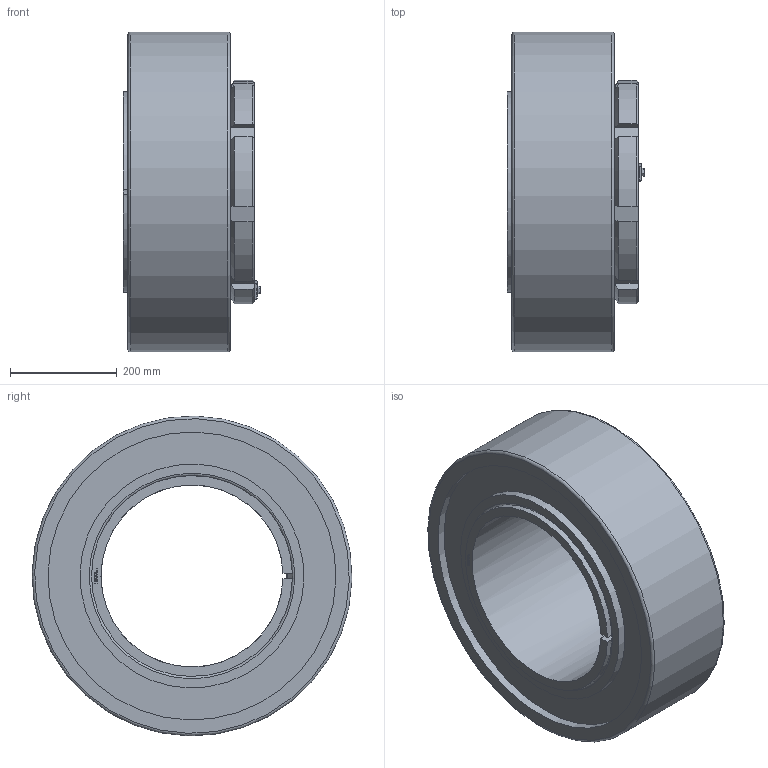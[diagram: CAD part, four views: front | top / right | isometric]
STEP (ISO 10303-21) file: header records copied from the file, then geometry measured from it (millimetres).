
FILE_DESCRIPTION( ( 'STEP AP203' ), ' ' );
FILE_NAME( 'p:/temp/worker_353/3748_4800/app_90_02016102822463263913135192d056f_000000_00_00_000000/format_0/BGL HA 3172 TL+23172K.stp', '2016-10-28T20:46:34', ( '' ), ( '' ), ' ', 'PARTsolutions', ' ' );
FILE_SCHEMA( ( 'CONFIG_CONTROL_DESIGN' ) );
Length unit declared in the file: millimetre
Products named in the file (6): BGL HA 3172 TL+23172K; _BGLHA3172TLB; _BGL HM 3072; _BGLHA3172TL+HA-23172K; _BGL MS 3072part; _BGL MS 3072HHS
Assembly tree (5 placements, depth 2):
  BGL HA 3172 TL+23172K
    _BGLHA3172TLB
    _BGL HM 3072
    _BGLHA3172TL+HA-23172K
    _BGL MS 3072part
    _BGL MS 3072HHS
Bounding box: 258.05 x 599.79 x 599.79 mm (x, y, z)
Volume: 35887641.6 mm3; surface area: 1783931.6 mm2
Topology: 5 solids, 5 shells, 351 faces, 899 edges, 589 vertices
Faces by surface type: plane 230, cylinder 79, cone 38, torus 4
Full cylindrical faces by diameter (mm): 8 x9, 9 x1, 14.8 x1, 355 x1, 420 x2, 540 x2, 600 x1
Entity records: 10762 total; most frequent: CARTESIAN_POINT 2104, DIRECTION 1729, ORIENTED_EDGE 1726, EDGE_CURVE 863, VERTEX_POINT 586, AXIS2_PLACEMENT_3D 577, LINE 575, VECTOR 575
